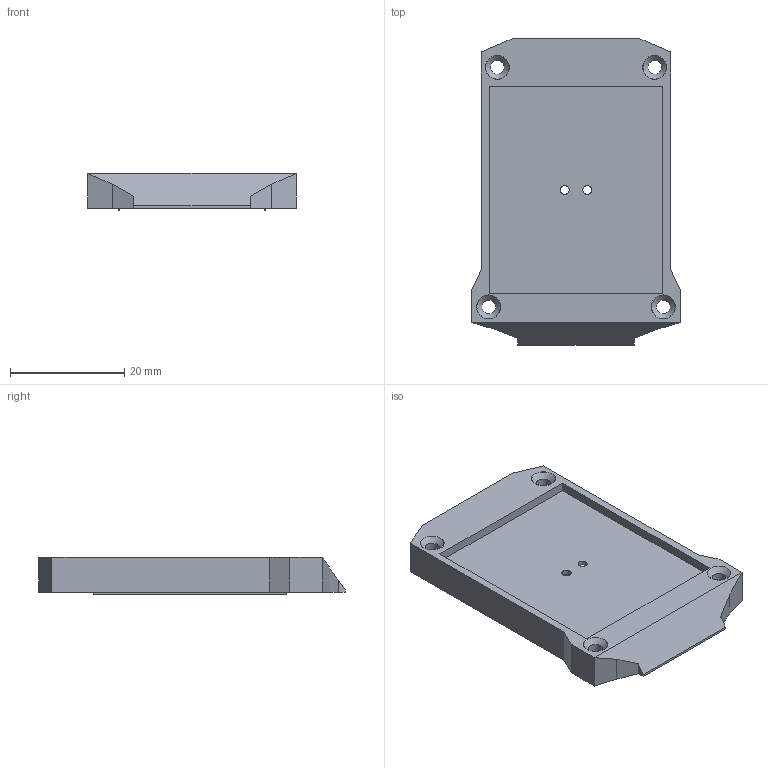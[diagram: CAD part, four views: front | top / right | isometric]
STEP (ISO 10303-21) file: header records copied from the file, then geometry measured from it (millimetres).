
FILE_DESCRIPTION(('Open CASCADE Model'),'2;1');
FILE_NAME('Open CASCADE Shape Model','2026-09-30T23:04:27',('Author'),( 'Open CASCADE'),'Open CASCADE STEP processor 8.0','Open CASCADE 8.0' ,'Unknown');
FILE_SCHEMA(('AP242_MANAGED_MODEL_BASED_3D_ENGINEERING_MIM_LF {1 0 10303 442 1 1 4 }' ));
Length unit declared in the file: millimetre
Products named in the file (1): Open CASCADE STEP translator 8.0 2
Bounding box: 36.6 x 53.7 x 6.5 mm (x, y, z)
Volume: 4390.3 mm3; surface area: 5910.1 mm2
Topology: 1 solids, 1 shells, 75 faces, 189 edges, 124 vertices
Faces by surface type: plane 61, cylinder 10, cone 4
Full cylindrical faces by diameter (mm): 1.6 x2, 2.4 x4, 4.2 x4
Entity records: 4592 total; most frequent: CARTESIAN_POINT 885, DIRECTION 625, LINE 405, VECTOR 405, ORIENTED_EDGE 378, PCURVE 378, DEFINITIONAL_REPRESENTATION 378, EDGE_CURVE 189
